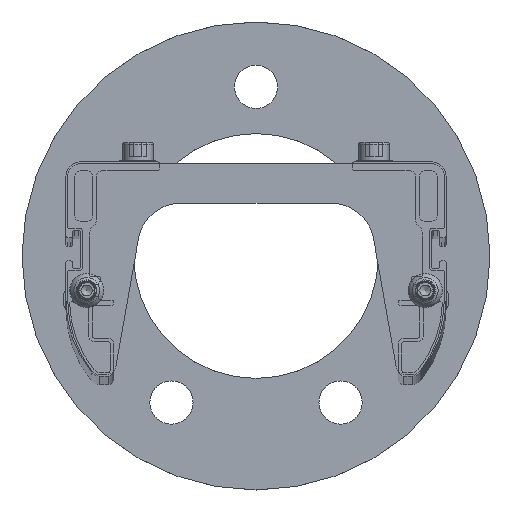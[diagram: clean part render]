
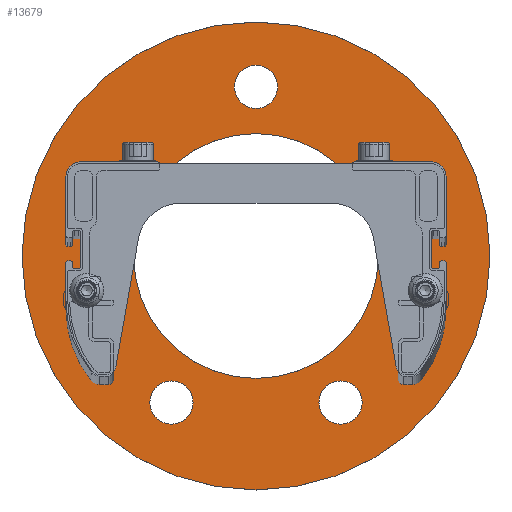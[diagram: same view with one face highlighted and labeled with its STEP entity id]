
A CAD part, top view. The second image highlights one B-rep face of the part: STEP entity #13679.
In plain terms, the highlighted planar face has unit normal (0, 0, 1).
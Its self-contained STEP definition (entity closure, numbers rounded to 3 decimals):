
#13679=ADVANCED_FACE('',(#29071,#29072,#29073,#29074,#29075,#29076,#29077),
#16083,.T.);
#16083=PLANE('',#85435);
#29071=FACE_BOUND('',#33531,.T.);
#29072=FACE_BOUND('',#33532,.T.);
#29073=FACE_BOUND('',#33533,.T.);
#29074=FACE_BOUND('',#33534,.T.);
#29075=FACE_BOUND('',#33535,.T.);
#29076=FACE_BOUND('',#33536,.T.);
#29077=FACE_BOUND('',#33537,.T.);
#33531=EDGE_LOOP('',(#52541));
#33532=EDGE_LOOP('',(#52542));
#33533=EDGE_LOOP('',(#52543));
#33534=EDGE_LOOP('',(#52544));
#33535=EDGE_LOOP('',(#52545));
#33536=EDGE_LOOP('',(#52546));
#33537=EDGE_LOOP('',(#52547));
#52541=ORIENTED_EDGE('',*,*,#72555,.F.);
#52542=ORIENTED_EDGE('',*,*,#72556,.F.);
#52543=ORIENTED_EDGE('',*,*,#72557,.F.);
#52544=ORIENTED_EDGE('',*,*,#72558,.T.);
#52545=ORIENTED_EDGE('',*,*,#72559,.T.);
#52546=ORIENTED_EDGE('',*,*,#72560,.T.);
#52547=ORIENTED_EDGE('',*,*,#72561,.F.);
#62305=VERTEX_POINT('',#129610);
#62306=VERTEX_POINT('',#129612);
#62307=VERTEX_POINT('',#129614);
#62308=VERTEX_POINT('',#129616);
#62309=VERTEX_POINT('',#129618);
#62310=VERTEX_POINT('',#129620);
#62311=VERTEX_POINT('',#129622);
#72555=EDGE_CURVE('',#62305,#62305,#77473,.T.);
#72556=EDGE_CURVE('',#62306,#62306,#77474,.T.);
#72557=EDGE_CURVE('',#62307,#62307,#77475,.T.);
#72558=EDGE_CURVE('',#62308,#62308,#77476,.T.);
#72559=EDGE_CURVE('',#62309,#62309,#77477,.T.);
#72560=EDGE_CURVE('',#62310,#62310,#77478,.T.);
#72561=EDGE_CURVE('',#62311,#62311,#77479,.T.);
#77473=CIRCLE('',#85428,6.);
#77474=CIRCLE('',#85429,6.);
#77475=CIRCLE('',#85430,6.);
#77476=CIRCLE('',#85431,34.);
#77477=CIRCLE('',#85432,3.6);
#77478=CIRCLE('',#85433,3.6);
#77479=CIRCLE('',#85434,65.);
#85428=AXIS2_PLACEMENT_3D('',#129609,#106436,#106437);
#85429=AXIS2_PLACEMENT_3D('',#129611,#106438,#106439);
#85430=AXIS2_PLACEMENT_3D('',#129613,#106440,#106441);
#85431=AXIS2_PLACEMENT_3D('',#129615,#106442,#106443);
#85432=AXIS2_PLACEMENT_3D('',#129617,#106444,#106445);
#85433=AXIS2_PLACEMENT_3D('',#129619,#106446,#106447);
#85434=AXIS2_PLACEMENT_3D('',#129621,#106448,#106449);
#85435=AXIS2_PLACEMENT_3D('',#129623,#106450,#106451);
#106436=DIRECTION('',(0.,0.,1.));
#106437=DIRECTION('',(-1.,0.,0.));
#106438=DIRECTION('',(0.,0.,1.));
#106439=DIRECTION('',(-1.,0.,0.));
#106440=DIRECTION('',(0.,0.,1.));
#106441=DIRECTION('',(-1.,0.,0.));
#106442=DIRECTION('',(0.,0.,-1.));
#106443=DIRECTION('',(-1.,0.,0.));
#106444=DIRECTION('',(0.,0.,-1.));
#106445=DIRECTION('',(1.,0.,0.));
#106446=DIRECTION('',(0.,0.,-1.));
#106447=DIRECTION('',(1.,0.,0.));
#106448=DIRECTION('',(0.,0.,-1.));
#106449=DIRECTION('',(-1.,0.,0.));
#106450=DIRECTION('',(0.,0.,1.));
#106451=DIRECTION('',(-1.,0.,0.));
#129609=CARTESIAN_POINT('',(293.846,-100.913,-285.));
#129610=CARTESIAN_POINT('',(287.846,-100.913,-285.));
#129611=CARTESIAN_POINT('',(317.346,-13.21,-285.));
#129612=CARTESIAN_POINT('',(311.346,-13.21,-285.));
#129613=CARTESIAN_POINT('',(340.846,-100.913,-285.));
#129614=CARTESIAN_POINT('',(334.846,-100.913,-285.));
#129615=CARTESIAN_POINT('',(317.346,-60.21,-285.));
#129616=CARTESIAN_POINT('',(283.346,-60.21,-285.));
#129617=CARTESIAN_POINT('',(364.346,-72.21,-285.));
#129618=CARTESIAN_POINT('',(367.946,-72.21,-285.));
#129619=CARTESIAN_POINT('',(270.346,-72.21,-285.));
#129620=CARTESIAN_POINT('',(273.946,-72.21,-285.));
#129621=CARTESIAN_POINT('',(317.346,-60.21,-285.));
#129622=CARTESIAN_POINT('',(252.346,-60.21,-285.));
#129623=CARTESIAN_POINT('',(252.346,-60.21,-285.));
